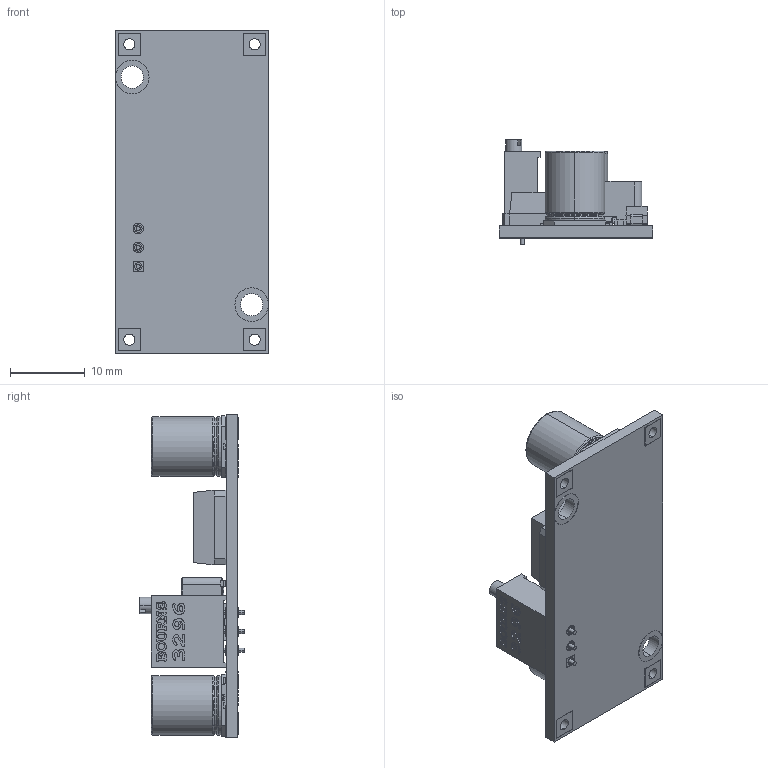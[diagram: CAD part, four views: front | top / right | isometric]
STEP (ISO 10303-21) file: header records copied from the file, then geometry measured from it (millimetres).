
FILE_DESCRIPTION (( 'STEP AP214' ), '1' );
FILE_NAME ('HW-411.STEP', '2025-02-17T18:43:17', ( 'Sk' ), ( '' ), 'SwSTEP 2.0', 'SolidWorks 2012', '' );
FILE_SCHEMA (( 'AUTOMOTIVE_DESIGN' ));
Length unit declared in the file: millimetre
Products named in the file (14): RES_3296W^HW-411; 002^CDRH125_HW-411; 001^CDRH125_HW-411; Diode_DO214AC(SMA)^HW-411; LED_0603_Green^HW-411; Board^HW-411; CAP_SMD_0603_H0.50^HW-411; CDRH125^HW-411; TO-263-5^HW-411; RES_SMD_0603^HW-411; HW-411; 005^CDRH125_HW-411; 003^CDRH125_HW-411; CAP_SMD_AL_08.0x10.0^HW-411
Assembly tree (17 placements, depth 3):
  HW-411
    Board^HW-411
    RES_3296W^HW-411
    TO-263-5^HW-411
    CAP_SMD_AL_08.0x10.0^HW-411  x2
    RES_SMD_0603^HW-411  x2
    CAP_SMD_0603_H0.50^HW-411  x2
    CDRH125^HW-411
      001^CDRH125_HW-411
      002^CDRH125_HW-411
      005^CDRH125_HW-411  x2
      003^CDRH125_HW-411
    Diode_DO214AC(SMA)^HW-411
    LED_0603_Green^HW-411
Bounding box: 20.6 x 13.97 x 43.4 mm (x, y, z)
Volume: 3831.8 mm3; surface area: 5221 mm2
Topology: 34 solids, 34 shells, 1591 faces, 4029 edges, 2544 vertices
Faces by surface type: plane 802, bspline 349, cylinder 296, cone 54, torus 48, sphere 42
Entity records: 57846 total; most frequent: CARTESIAN_POINT 22605, ORIENTED_EDGE 6440, DIRECTION 4999, EDGE_CURVE 3220, VERTEX_POINT 2071, VECTOR 2043, LINE 2043, AXIS2_PLACEMENT_3D 1478
